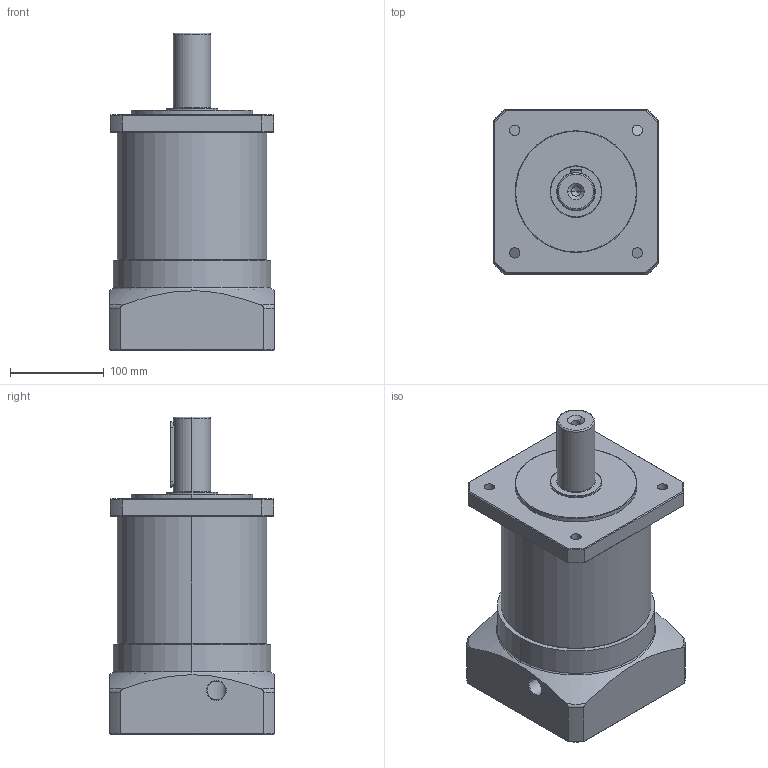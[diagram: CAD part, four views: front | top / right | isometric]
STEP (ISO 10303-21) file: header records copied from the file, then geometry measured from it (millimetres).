
FILE_DESCRIPTION (( 'STEP AP214' ), '1' );
FILE_NAME ('PF160-L2-35×80-114.3-200M12 三维零件图.STEP', '2021-08-06T06:15:06', ( 'XJJ' ), ( '' ), 'SwSTEP 2.0', 'SolidWorks 2016', '' );
FILE_SCHEMA (( 'AUTOMOTIVE_DESIGN' ));
Length unit declared in the file: millimetre
Products named in the file (3): PF160-L2-35×80-114.3-200M12 三维零件图; hexagon socket head cap screws gb_GB_FASTENER_SCREWS_HSHCS M10X16-N; PF160-L2-35×80-114.3-200M12 三维外形图
Assembly tree (2 placements, depth 2):
  PF160-L2-35×80-114.3-200M12 三维零件图
    PF160-L2-35×80-114.3-200M12 三维外形图
    hexagon socket head cap screws gb_GB_FASTENER_SCREWS_HSHCS M10X16-N
Bounding box: 176 x 176 x 339 mm (x, y, z)
Volume: 5629935.3 mm3; surface area: 276727.9 mm2
Topology: 2 solids, 2 shells, 193 faces, 450 edges, 266 vertices
Faces by surface type: cylinder 66, plane 54, cone 46, torus 27
Entity records: 6317 total; most frequent: CARTESIAN_POINT 1611, DIRECTION 992, ORIENTED_EDGE 876, EDGE_CURVE 438, AXIS2_PLACEMENT_3D 412, VERTEX_POINT 266, EDGE_LOOP 226, CIRCLE 214
